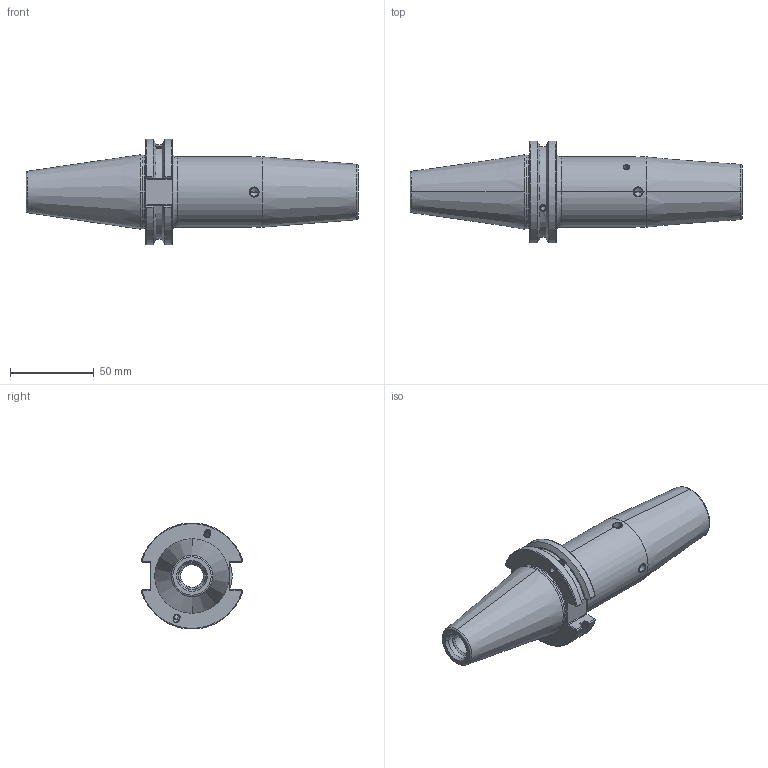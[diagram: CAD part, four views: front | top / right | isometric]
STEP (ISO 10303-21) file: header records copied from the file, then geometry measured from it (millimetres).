
FILE_DESCRIPTION((''),'2;1');
FILE_NAME('CAT40ADB-SFH19_05C-130','2020-09-02T08:32:46',('ssktool'),(''),'CREO PARAMETRIC BY PTC INC, 2018100','CREO PARAMETRIC BY PTC INC, 2018100','');
FILE_SCHEMA(('CONFIG_CONTROL_DESIGN'));
Length unit declared in the file: millimetre
Products named in the file (1): CAT40ADB-SFH19_05C-130
Bounding box: 198.25 x 60.84 x 63.27 mm (x, y, z)
Volume: 210871.4 mm3; surface area: 44329.9 mm2
Topology: 1 solids, 10 shells, 201 faces, 536 edges, 336 vertices
Faces by surface type: cylinder 86, plane 53, cone 40, torus 18, bspline 4
Entity records: 6919 total; most frequent: CARTESIAN_POINT 2043, DIRECTION 992, ORIENTED_EDGE 984, EDGE_CURVE 520, AXIS2_PLACEMENT_3D 394, VERTEX_POINT 336, EDGE_LOOP 232, VECTOR 204
